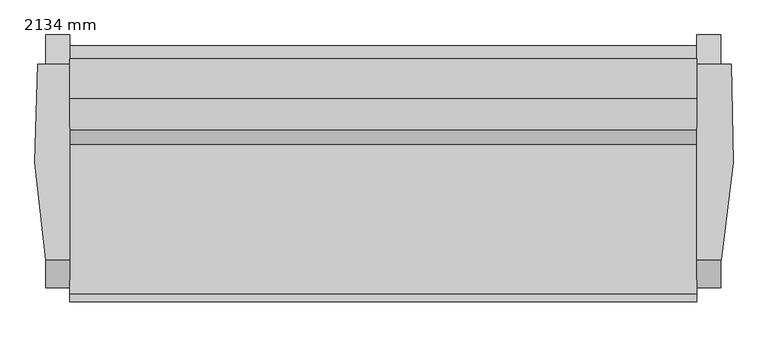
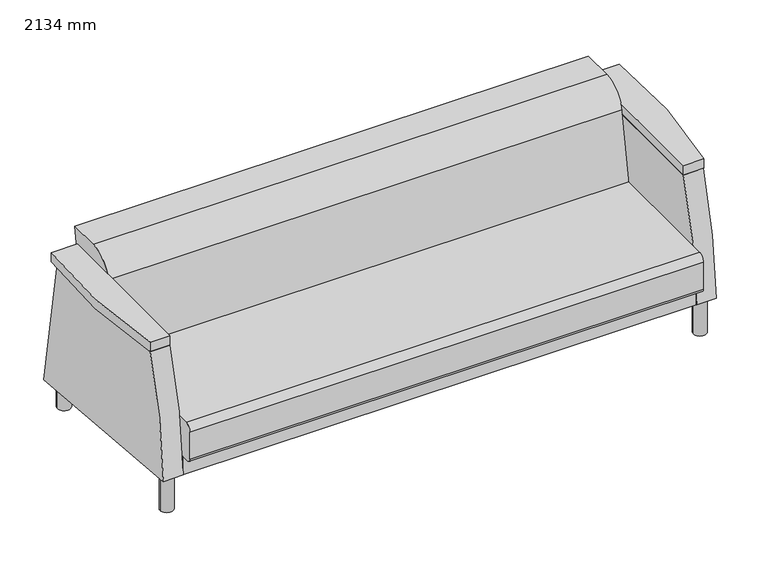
"""IFC4 building model written with IfcOpenShell, lengths in millimetres: furniture geometry, M_Banquette (2) : 2134 mm."""

from ifc_helpers import new_model, si_unit, point, frame, frame_2d, origin, origin_with_axes, place, context, project, spatial, polyline, circle_curve, trimmed, segment, composite_curve, outline, extrude, source, transform, mapped, element, save


def furniture_2134_mm_67ee6dc0(model_context):
    return source(origin(), model_context, "Body", "SweptSolid", [
        extrude(outline(composite_curve([segment(trimmed(circle_curve(frame_2d((-750.29375, -53.0901639)), 25.4), [point((-775.69375, -53.0901639))], [point((-724.89375, -53.0901639))], False, "CARTESIAN"), True, "CONTINUOUS"), segment(trimmed(circle_curve(frame_2d((-750.29375, -53.0901639)), 25.4), [point((-724.89375, -53.0901639))], [point((-775.69375, -53.0901639))], False, "CARTESIAN"), True, "CONTINUOUS")], self_intersect=False)), origin_with_axes(), (0.0, 0.0, 1.0), 148.43125),
        extrude(outline(composite_curve([segment(trimmed(circle_curve(frame_2d((-750.29375, 632.7098361)), 25.4), [point((-775.69375, 632.7098361))], [point((-724.89375, 632.7098361))], False, "CARTESIAN"), True, "CONTINUOUS"), segment(trimmed(circle_curve(frame_2d((-750.29375, 632.7098361)), 25.4), [point((-724.89375, 632.7098361))], [point((-775.69375, 632.7098361))], False, "CARTESIAN"), True, "CONTINUOUS")], self_intersect=False)), origin_with_axes(), (0.0, 0.0, 1.0), 148.43125),
        extrude(outline(composite_curve([segment(trimmed(circle_curve(frame_2d((1307.50625, 632.7098361)), 25.4), [point((1282.10625, 632.7098361))], [point((1332.90625, 632.7098361))], False, "CARTESIAN"), True, "CONTINUOUS"), segment(trimmed(circle_curve(frame_2d((1307.50625, 632.7098361)), 25.4), [point((1332.90625, 632.7098361))], [point((1282.10625, 632.7098361))], False, "CARTESIAN"), True, "CONTINUOUS")], self_intersect=False)), origin_with_axes(), (0.0, 0.0, 1.0), 148.43125),
        extrude(outline(composite_curve([segment(trimmed(circle_curve(frame_2d((1307.50625, -53.0901639)), 25.4), [point((1282.10625, -53.0901639))], [point((1332.90625, -53.0901639))], False, "CARTESIAN"), True, "CONTINUOUS"), segment(trimmed(circle_curve(frame_2d((1307.50625, -53.0901639)), 25.4), [point((1332.90625, -53.0901639))], [point((1282.10625, -53.0901639))], False, "CARTESIAN"), True, "CONTINUOUS")], self_intersect=False)), origin_with_axes(), (0.0, 0.0, 1.0), 148.43125),
        extrude(outline(polyline([(1269.40625, 668.3047863), (1269.40625, -93.6952137), (-712.19375, -93.6952137), (-712.19375, 668.3047863), (1269.40625, 668.3047863)])), frame((0.0, 0.0, 148.0509954), z_axis=(0.0, 0.0, 1.0), x_axis=(1.0, 0.0, 0.0)), (0.0, 0.0, 1.0), 76.2),
        extrude(outline(composite_curve([segment(polyline([(-9.3943348, 626.0203985), (608.6917937, 626.0203985), (701.7619204, 79.3588346), (-97.7900405, 149.3105671)]), True, "CONTINUOUS"), segment(trimmed(circle_curve(frame_2d((1499.9783711, 99.5888442)), 1598.5418814), [point((-97.7900405, 149.3105671))], [point((-9.3943348, 626.0203985))], False, "CARTESIAN"), True, "CONTINUOUS")], self_intersect=False)), frame((-788.39375, 0.0, 0.0), z_axis=(1.0, 0.0, 0.0), x_axis=(0.0, 1.0, 0.0)), (0.0, 0.0, 1.0), 76.2),
        extrude(outline(composite_curve([segment(polyline([(701.7619204, 79.3588346), (-97.7900405, 149.3105671)]), True, "CONTINUOUS"), segment(trimmed(circle_curve(frame_2d((1499.9783711, 99.5888442)), 1598.5418814), [point((-97.7900405, 149.3105671))], [point((-9.3943348, 626.0203985))], False, "CARTESIAN"), True, "CONTINUOUS"), segment(polyline([(-9.3943348, 626.0203985), (608.6917937, 626.0203985), (701.7619204, 79.3588346)]), True, "CONTINUOUS")], self_intersect=False)), frame((1269.40625, 0.0, 0.0), z_axis=(1.0, 0.0, 0.0), x_axis=(0.0, 1.0, 0.0)), (0.0, 0.0, 1.0), 76.2),
        extrude(outline(composite_curve([segment(trimmed(circle_curve(frame_2d((-116.5901639, 351.2509954)), 25.4), [point((-141.9901639, 351.2509954))], [point((-116.5901639, 376.6509954))], False, "CARTESIAN"), True, "CONTINUOUS"), segment(polyline([(-116.5901639, 376.6509954), (355.3895541, 376.6509954), (402.1988177, 642.1195211)]), True, "CONTINUOUS"), segment(trimmed(circle_curve(frame_2d((502.2552854, 624.4768662)), 101.6), [point((402.1988177, 642.1195211))], [point((502.2552854, 726.0768662))], False, "CARTESIAN"), True, "CONTINUOUS"), segment(polyline([(502.2552854, 726.0768662), (626.3344485, 726.0768662), (609.5377828, 620.1719187), (667.6541767, 224.2509954), (-126.1151639, 224.2509954)]), True, "CONTINUOUS"), segment(trimmed(circle_curve(frame_2d((-126.1151639, 240.1259954)), 15.875), [point((-126.1151639, 224.2509954))], [point((-141.9901639, 240.1259954))], False, "CARTESIAN"), True, "CONTINUOUS"), segment(polyline([(-141.9901639, 240.1259954), (-141.9901639, 351.2509954)]), True, "CONTINUOUS")], self_intersect=False)), frame((-712.19375, 0.0, 0.0), z_axis=(1.0, 0.0, 0.0), x_axis=(0.0, 1.0, 0.0)), (0.0, 0.0, 1.0), 1981.6),
        extrude(outline(composite_curve([segment(polyline([(-712.19375, -9.3943348), (-788.39375, -9.3943348)]), True, "CONTINUOUS"), segment(trimmed(circle_curve(frame_2d((1379.7527561, 389.2697363)), 2204.4936638), [point((-788.39375, -9.3943348))], [point((-813.79375, 608.6917935))], False, "CARTESIAN"), True, "CONTINUOUS"), segment(polyline([(-813.79375, 608.6917935), (-712.19375, 608.6917935), (-712.19375, -9.3943348)]), True, "CONTINUOUS")], self_intersect=False)), frame((0.0, 0.0, 626.0203985), z_axis=(0.0, 0.0, 1.0), x_axis=(1.0, 0.0, 0.0)), (0.0, 0.0, 1.0), 38.1),
        extrude(outline(composite_curve([segment(polyline([(1269.40625, -9.3943348), (1269.40625, 608.9395268), (1378.0864453, 608.9395268)]), True, "CONTINUOUS"), segment(trimmed(circle_curve(frame_2d((-821.5771494, 407.0270204)), 2208.9111775), [point((1378.0864453, 608.9395268))], [point((1347.7273117, -9.3943348))], False, "CARTESIAN"), True, "CONTINUOUS"), segment(polyline([(1347.7273117, -9.3943348), (1269.40625, -9.3943348)]), True, "CONTINUOUS")], self_intersect=False)), frame((0.0, 0.0, 626.0203985), z_axis=(0.0, 0.0, 1.0), x_axis=(1.0, 0.0, 0.0)), (0.0, 0.0, 1.0), 38.1),
    ])


if __name__ == "__main__":
    model = new_model("IFC4")
    model_context = context("Model", 3, world=origin())
    ifc_project = project(units=[si_unit("LENGTHUNIT", "METRE", prefix="MILLI")], contexts=[model_context])
    site = spatial("IfcSite", under=ifc_project)
    building = spatial("IfcBuilding", under=site)
    placement = place(None, origin())
    furniture_2134_mm_shape = furniture_2134_mm_67ee6dc0(model_context)
    element("IfcFurniture", 1, ObjectType="M_Banquette (2) : 2134 mm", at=placement, inside=building, context=model_context, shape_type="MappedRepresentation", body=[
        mapped(furniture_2134_mm_shape, transform((0.0, 0.0, 0.0), x_axis=(1.0, 0.0, 0.0), y_axis=(0.0, 1.0, 0.0), z_axis=(0.0, 0.0, 1.0))),
    ])
    save(model, "model.ifc")
